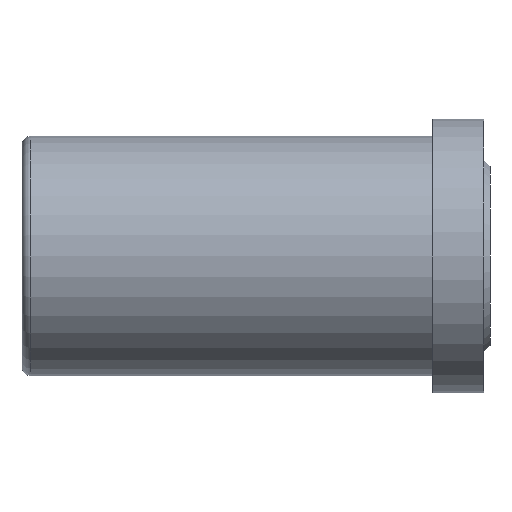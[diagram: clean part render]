
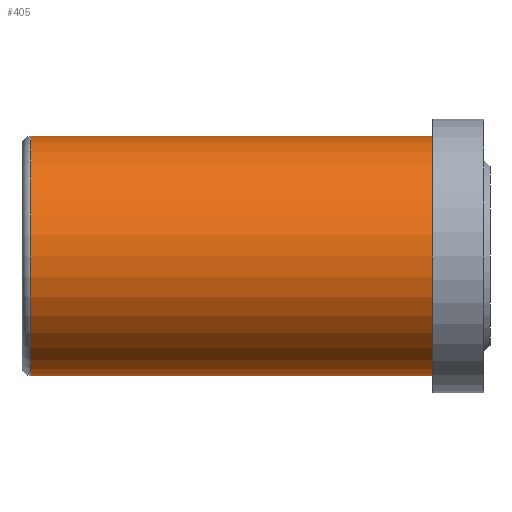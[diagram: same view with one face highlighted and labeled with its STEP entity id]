
A CAD part, left-side view. The second image highlights one B-rep face of the part: STEP entity #405.
In plain terms, the highlighted cylindrical face has radius 7 mm (diameter 14 mm), a partial arc.
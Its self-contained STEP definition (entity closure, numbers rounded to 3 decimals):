
#4 = DIRECTION ( 'NONE',  ( 0., 0., -1. ) ) ;
#15 = CARTESIAN_POINT ( 'NONE',  ( 0., 0., 0. ) ) ;
#31 = CYLINDRICAL_SURFACE ( 'NONE', #251, 7. ) ;
#39 = DIRECTION ( 'NONE',  ( 0., -1., 0. ) ) ;
#56 = DIRECTION ( 'NONE',  ( 0., 0., -1. ) ) ;
#60 = DIRECTION ( 'NONE',  ( 0., 0., -1. ) ) ;
#98 = DIRECTION ( 'NONE',  ( 0., -1., 0. ) ) ;
#111 = LINE ( 'NONE', #492, #305 ) ;
#115 = EDGE_CURVE ( 'NONE', #459, #489, #450, .T. ) ;
#143 = ORIENTED_EDGE ( 'NONE', *, *, #146, .F. ) ;
#146 = EDGE_CURVE ( 'NONE', #361, #154, #111, .T. ) ;
#154 = VERTEX_POINT ( 'NONE', #455 ) ;
#160 = CARTESIAN_POINT ( 'NONE',  ( 0., 0., -7. ) ) ;
#194 = ORIENTED_EDGE ( 'NONE', *, *, #454, .F. ) ;
#237 = DIRECTION ( 'NONE',  ( 0., -1., 0. ) ) ;
#246 = FACE_OUTER_BOUND ( 'NONE', #371, .T. ) ;
#251 = AXIS2_PLACEMENT_3D ( 'NONE', #469, #98, #56 ) ;
#259 = CIRCLE ( 'NONE', #482, 7. ) ;
#289 = DIRECTION ( 'NONE',  ( 0., -1., 0. ) ) ;
#305 = VECTOR ( 'NONE', #39, 1000. ) ;
#309 = EDGE_CURVE ( 'NONE', #361, #459, #259, .T. ) ;
#330 = AXIS2_PLACEMENT_3D ( 'NONE', #15, #289, #60 ) ;
#347 = ORIENTED_EDGE ( 'NONE', *, *, #309, .T. ) ;
#356 = ORIENTED_EDGE ( 'NONE', *, *, #115, .T. ) ;
#361 = VERTEX_POINT ( 'NONE', #428 ) ;
#367 = VECTOR ( 'NONE', #384, 1000. ) ;
#371 = EDGE_LOOP ( 'NONE', ( #143, #347, #356, #194 ) ) ;
#384 = DIRECTION ( 'NONE',  ( 0., -1., 0. ) ) ;
#405 = ADVANCED_FACE ( 'NONE', ( #246 ), #31, .T. ) ;
#419 = CIRCLE ( 'NONE', #330, 7. ) ;
#428 = CARTESIAN_POINT ( 'NONE',  ( 0., 23.5, 7. ) ) ;
#432 = CARTESIAN_POINT ( 'NONE',  ( 0., 23.5, -7. ) ) ;
#436 = CARTESIAN_POINT ( 'NONE',  ( 0., 0., -7. ) ) ;
#450 = LINE ( 'NONE', #160, #367 ) ;
#454 = EDGE_CURVE ( 'NONE', #154, #489, #419, .T. ) ;
#455 = CARTESIAN_POINT ( 'NONE',  ( 0., 0., 7. ) ) ;
#459 = VERTEX_POINT ( 'NONE', #432 ) ;
#467 = CARTESIAN_POINT ( 'NONE',  ( 0., 23.5, 0. ) ) ;
#469 = CARTESIAN_POINT ( 'NONE',  ( 0., 0., 0. ) ) ;
#482 = AXIS2_PLACEMENT_3D ( 'NONE', #467, #237, #4 ) ;
#489 = VERTEX_POINT ( 'NONE', #436 ) ;
#492 = CARTESIAN_POINT ( 'NONE',  ( 0., 0., 7. ) ) ;
